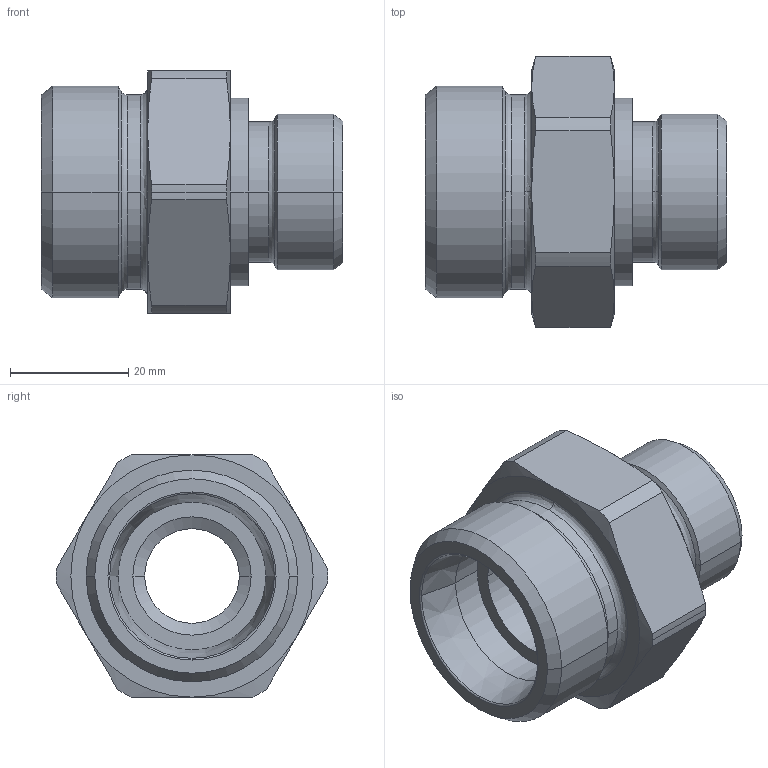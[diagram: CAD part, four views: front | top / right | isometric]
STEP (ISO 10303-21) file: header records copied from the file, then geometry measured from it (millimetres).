
FILE_DESCRIPTION((''),'2;1');
FILE_NAME('100539.stp','2007-10-30T14:34:31',(''),(''),'AutoCAD STEP 2000i','AutoCAD 2000i',', , ');
FILE_SCHEMA(('CONFIG_CONTROL_DESIGN'));
Length unit declared in the file: millimetre
Products named in the file (2): 100539.0; CHIAVE SMUSSATA#0
Assembly tree (1 placements, depth 2):
  100539.0
    CHIAVE SMUSSATA#0
Bounding box: 51 x 45.9 x 41 mm (x, y, z)
Volume: 31979.3 mm3; surface area: 11176.1 mm2
Topology: 1 solids, 1 shells, 79 faces, 193 edges, 121 vertices
Faces by surface type: cylinder 26, cone 26, plane 13, bspline 12, torus 2
Entity records: 2935 total; most frequent: CARTESIAN_POINT 971, DIRECTION 430, ORIENTED_EDGE 386, EDGE_CURVE 193, AXIS2_PLACEMENT_3D 192, CIRCLE 123, VERTEX_POINT 121, EDGE_LOOP 86
